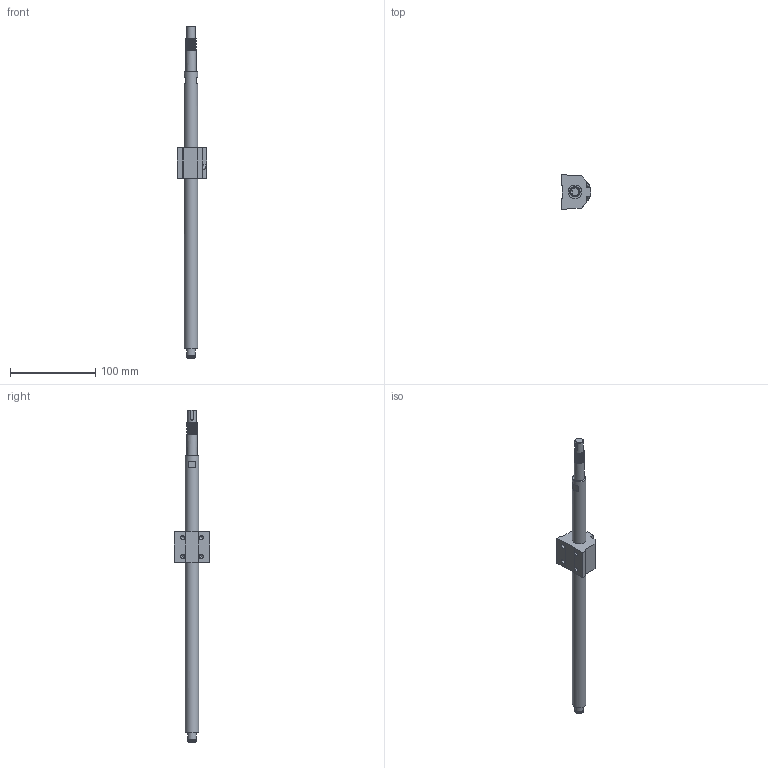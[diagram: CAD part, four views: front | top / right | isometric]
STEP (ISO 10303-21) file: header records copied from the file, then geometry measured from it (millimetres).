
FILE_DESCRIPTION(/* description */ (''),/* implementation_level */ '2;1');
FILE_NAME(/* name */ 'BSG480_asm1.stp',/* time_stamp */ '2017-01-17T15:33:32+08:00',/* author */ (''),/* organization */ (''),/* preprocessor_version */ 'ST-DEVELOPER v15',/* originating_system */ 'SIEMENS PLM Software NX 8.5',/* authorisation */ '');
FILE_SCHEMA (('AUTOMOTIVE_DESIGN { 1 0 10303 214 3 1 1 1 }'));
Length unit declared in the file: millimetre
Products named in the file (3): 01; BSG124; BSG480_asm1
Assembly tree (2 placements, depth 2):
  BSG480_asm1
    BSG124
    01
Bounding box: 34.5 x 42 x 390 mm (x, y, z)
Volume: 103910.8 mm3; surface area: 29295.5 mm2
Topology: 2 solids, 2 shells, 90 faces, 222 edges, 150 vertices
Faces by surface type: plane 47, cylinder 31, cone 6, torus 4, bspline 2
Full cylindrical faces by diameter (mm): 3.5 x2, 4.2 x4, 5 x5, 6 x3, 9.6 x1, 10 x3, 12 x8, 16 x2
Entity records: 3480 total; most frequent: CARTESIAN_POINT 1728, DIRECTION 344, ORIENTED_EDGE 286, EDGE_CURVE 143, EDGE_LOOP 136, AXIS2_PLACEMENT_3D 135, VERTEX_POINT 115, FACE_BOUND 110
